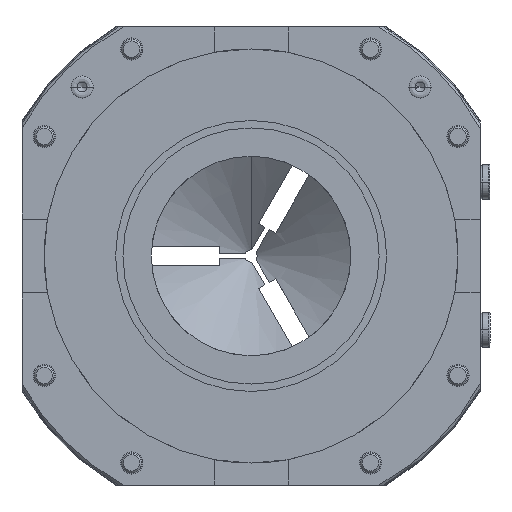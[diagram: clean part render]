
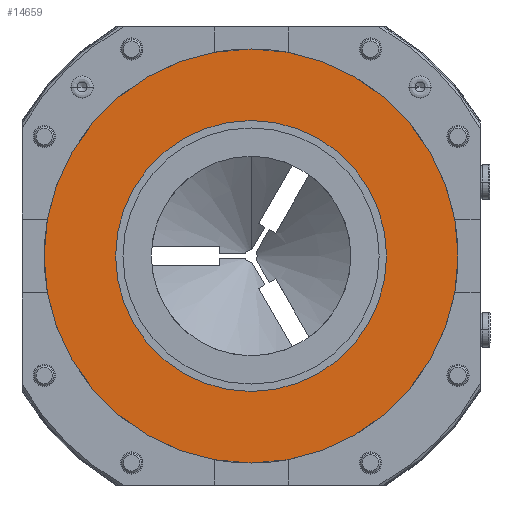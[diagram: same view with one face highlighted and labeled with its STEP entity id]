
A CAD part, front view. The second image highlights one B-rep face of the part: STEP entity #14659.
In plain terms, the highlighted planar face has unit normal (0, -1, 0).
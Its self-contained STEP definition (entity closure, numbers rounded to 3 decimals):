
#1872 = EDGE_CURVE ( 'NONE', #4675, #4096, #17712, .T. ) ;
#1926 = EDGE_CURVE ( 'NONE', #4457, #4494, #18980, .T. ) ;
#3547 = PLANE ( 'NONE',  #20896 ) ;
#3549 = DIRECTION ( 'NONE',  ( 0., -1., 0. ) ) ;
#3576 = CARTESIAN_POINT ( 'NONE',  ( 0., 11.35, 0. ) ) ;
#3602 = DIRECTION ( 'NONE',  ( 0., 0., 1. ) ) ;
#4096 = VERTEX_POINT ( 'NONE', #13839 ) ;
#4457 = VERTEX_POINT ( 'NONE', #7366 ) ;
#4494 = VERTEX_POINT ( 'NONE', #7134 ) ;
#4675 = VERTEX_POINT ( 'NONE', #6956 ) ;
#5591 = CARTESIAN_POINT ( 'NONE',  ( 0., 11.35, 0. ) ) ;
#5688 = DIRECTION ( 'NONE',  ( 0., -1., 0. ) ) ;
#5812 = DIRECTION ( 'NONE',  ( 0., 0., 1. ) ) ;
#6146 = DIRECTION ( 'NONE',  ( 0., 0., 1. ) ) ;
#6147 = DIRECTION ( 'NONE',  ( 0., 1., 0. ) ) ;
#6148 = CARTESIAN_POINT ( 'NONE',  ( 0., 11.35, 0. ) ) ;
#6956 = CARTESIAN_POINT ( 'NONE',  ( 0., 11.35, -84.05 ) ) ;
#7134 = CARTESIAN_POINT ( 'NONE',  ( 0., 11.35, -55. ) ) ;
#7366 = CARTESIAN_POINT ( 'NONE',  ( 0., 11.35, 55. ) ) ;
#7669 = FACE_OUTER_BOUND ( 'NONE', #19960, .T. ) ;
#8027 = FACE_BOUND ( 'NONE', #19020, .T. ) ;
#8963 = EDGE_CURVE ( 'NONE', #4096, #4675, #18212, .T. ) ;
#8969 = EDGE_CURVE ( 'NONE', #4494, #4457, #18776, .T. ) ;
#9536 = AXIS2_PLACEMENT_3D ( 'NONE', #5591, #5688, #5812 ) ;
#9712 = AXIS2_PLACEMENT_3D ( 'NONE', #6148, #6147, #6146 ) ;
#13027 = ORIENTED_EDGE ( 'NONE', *, *, #1872, .T. ) ;
#13029 = ORIENTED_EDGE ( 'NONE', *, *, #8963, .T. ) ;
#13188 = ORIENTED_EDGE ( 'NONE', *, *, #1926, .T. ) ;
#13373 = ORIENTED_EDGE ( 'NONE', *, *, #8969, .T. ) ;
#13839 = CARTESIAN_POINT ( 'NONE',  ( 0., 11.35, 84.05 ) ) ;
#14659 = ADVANCED_FACE ( 'NONE', ( #7669, #8027 ), #3547, .T. ) ;
#17359 = CARTESIAN_POINT ( 'NONE',  ( 0., 11.35, 0. ) ) ;
#17540 = DIRECTION ( 'NONE',  ( 0., 0., 1. ) ) ;
#17543 = DIRECTION ( 'NONE',  ( 0., 0., 1. ) ) ;
#17605 = DIRECTION ( 'NONE',  ( 0., 1., 0. ) ) ;
#17623 = DIRECTION ( 'NONE',  ( 0., -1., 0. ) ) ;
#17647 = CARTESIAN_POINT ( 'NONE',  ( 0., 11.35, 0. ) ) ;
#17712 = CIRCLE ( 'NONE', #9536, 84.05 ) ;
#18212 = CIRCLE ( 'NONE', #21233, 84.05 ) ;
#18776 = CIRCLE ( 'NONE', #20862, 55. ) ;
#18980 = CIRCLE ( 'NONE', #9712, 55. ) ;
#19020 = EDGE_LOOP ( 'NONE', ( #13188, #13373 ) ) ;
#19960 = EDGE_LOOP ( 'NONE', ( #13029, #13027 ) ) ;
#20862 = AXIS2_PLACEMENT_3D ( 'NONE', #17647, #17605, #17543 ) ;
#20896 = AXIS2_PLACEMENT_3D ( 'NONE', #3576, #3549, #3602 ) ;
#21233 = AXIS2_PLACEMENT_3D ( 'NONE', #17359, #17623, #17540 ) ;
